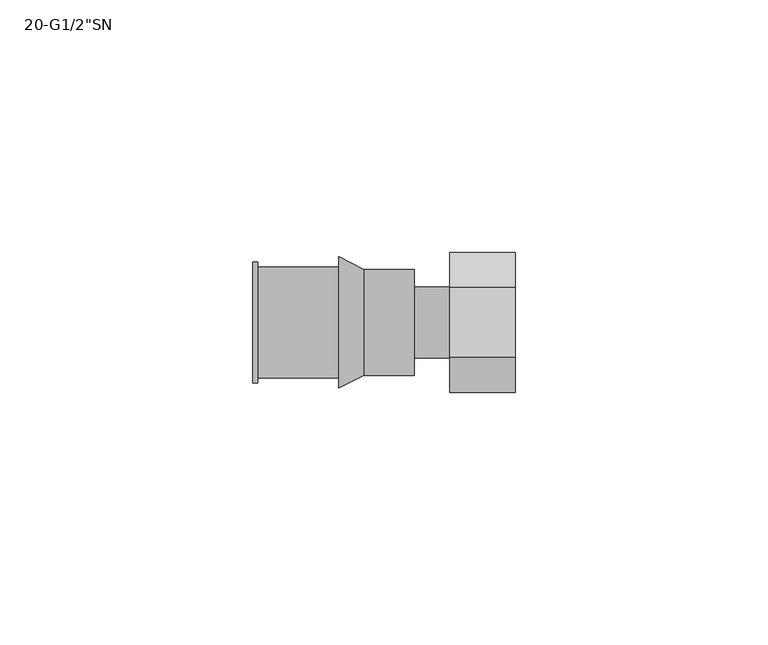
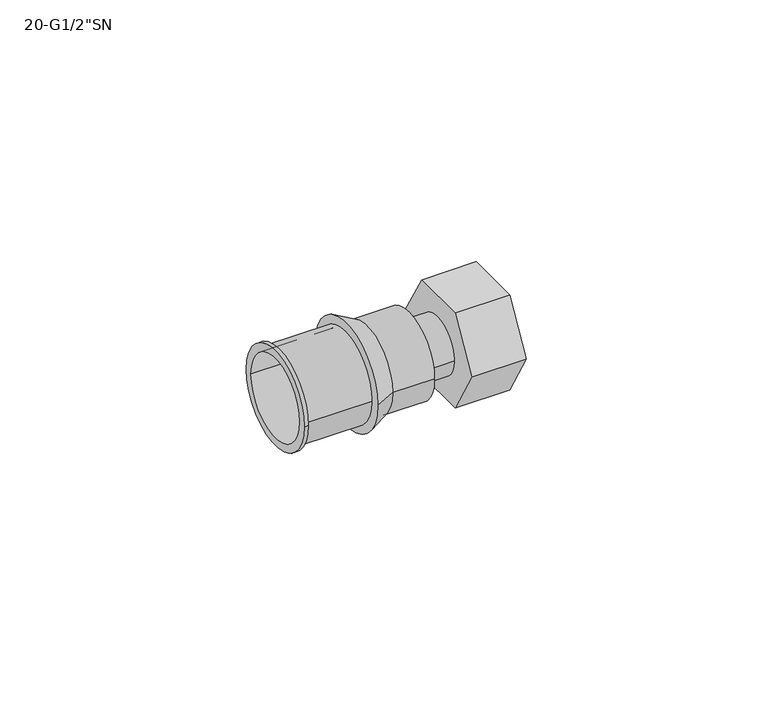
"""IFC4 building model written with IfcOpenShell, lengths in millimetres: pipe fitting geometry."""

from ifc_helpers import new_model, si_unit, frame, origin, place, context, project, spatial, polyline, circle_curve, source, transform, mapped, element, save
from ifc_brep_helpers import plane_surface, cylinder_surface, revolved_surface, advanced_brep


def pipe_fitting_65f6b2e2(model_context):
    return source(origin(), model_context, "Body", "AdvancedBrep", [
        advanced_brep(
        [(-5.0, -10.5, 0.0), (-5.0, 10.5, 0.0), (-5.0, -10.0, 0.0), (-5.0, 10.0, 0.0), (-10.0, -13.0, 0.0), (-10.0, 13.0, 0.0), (-10.0, 10.0, 0.0), (-10.0, -10.0, 0.0)],
        [
            (0, 1, circle_curve(frame((-5.0, 0.0, 0.0), z_axis=(1.0, 0.0, 0.0), x_axis=(0.0, -1.0, 0.0)), 10.5)),
            (1, 0, circle_curve(frame((-5.0, 0.0, 0.0), z_axis=(1.0, 0.0, 0.0), x_axis=(0.0, 1.0, 0.0)), 10.5)),
            (2, 3, circle_curve(frame((-5.0, 0.0, 0.0), z_axis=(-1.0, 0.0, 0.0), x_axis=(0.0, 1.0, 0.0)), 10.0)),
            (3, 2, circle_curve(frame((-5.0, 0.0, 0.0), z_axis=(-1.0, 0.0, 0.0), x_axis=(0.0, 1.0, 0.0)), 10.0)),
            (4, 5, circle_curve(frame((-10.0, 0.0, 0.0), z_axis=(-1.0, 0.0, 0.0), x_axis=(0.0, 1.0, 0.0)), 13.0)),
            (5, 4, circle_curve(frame((-10.0, 0.0, 0.0), z_axis=(-1.0, 0.0, 0.0), x_axis=(0.0, -1.0, 0.0)), 13.0)),
            (6, 7, circle_curve(frame((-10.0, 0.0, 0.0), z_axis=(1.0, 0.0, 0.0), x_axis=(0.0, 1.0, 0.0)), 10.0)),
            (7, 6, circle_curve(frame((-10.0, 0.0, 0.0), z_axis=(1.0, 0.0, 0.0), x_axis=(0.0, 1.0, 0.0)), 10.0)),
            (0, 4),
            (5, 1),
            (6, 3),
            (2, 7),
        ],
        [
            plane_surface(frame((-5.0, 0.0, 0.0), z_axis=(1.0, 0.0, 0.0), x_axis=(0.0, 0.0, -1.0))),
            plane_surface(frame((-10.0, 0.0, 0.0), z_axis=(-1.0, 0.0, 0.0), x_axis=(0.0, 0.0, -1.0))),
            revolved_surface(polyline([(-5.0, -10.5, 0.0), (-10.0, -13.0, 0.0)]), (16.0, 0.0, 0.0), (-1.0, 0.0, 0.0)),
            revolved_surface(polyline([(-5.0, 10.5, 0.0), (-10.0, 13.0, 0.0)]), (16.0, 0.0, 0.0), (-1.0, 0.0, 0.0)),
            revolved_surface(polyline([(-10.0, 10.0, 0.0), (-5.0, 10.0, 0.0)]), (-10.0, 0.0, 0.0), (-1.0, 0.0, 0.0)),
        ],
        [
            (0, [[1, 2], [3, 4]]),
            (1, [[5, 6], [7, 8]]),
            (2, [[-1, 9, -6, 10]]),
            (3, [[-2, -10, -5, -9]]),
            (4, [[11, -3, 12, -7]]),
            (4, [[-11, -8, -12, -4]]),
        ],
    ),
        advanced_brep(
        [(12.0, -13.8564065, 0.0), (12.0, -6.9282032, 12.0), (12.0, 6.9282032, 12.0), (12.0, 13.8564065, 0.0), (12.0, 6.9282032, -12.0), (12.0, -6.9282032, -12.0), (25.0, -13.8564065, 0.0), (25.0, -6.9282032, -12.0), (25.0, 6.9282032, -12.0), (25.0, 13.8564065, 0.0), (25.0, 6.9282032, 12.0), (25.0, -6.9282032, 12.0), (25.0, -8.5, 0.0), (25.0, 8.5, 0.0), (18.0, 8.5, 0.0), (18.0, -8.5, 0.0)],
        [
            (0, 1),
            (1, 2),
            (2, 3),
            (3, 4),
            (4, 5),
            (5, 0),
            (6, 7),
            (7, 8),
            (8, 9),
            (9, 10),
            (10, 11),
            (11, 6),
            (12, 13, circle_curve(frame((25.0, 0.0, 0.0), z_axis=(-1.0, 0.0, 0.0), x_axis=(0.0, -1.0, 0.0)), 8.5)),
            (13, 12, circle_curve(frame((25.0, 0.0, 0.0), z_axis=(-1.0, 0.0, 0.0), x_axis=(0.0, -1.0, 0.0)), 8.5)),
            (0, 6),
            (11, 1),
            (10, 2),
            (9, 3),
            (8, 4),
            (7, 5),
            (14, 15, circle_curve(frame((18.0, 0.0, 0.0), z_axis=(1.0, 0.0, 0.0), x_axis=(0.0, -1.0, 0.0)), 8.5)),
            (15, 14, circle_curve(frame((18.0, 0.0, 0.0), z_axis=(1.0, 0.0, 0.0), x_axis=(0.0, -1.0, 0.0)), 8.5)),
            (14, 13),
            (12, 15),
        ],
        [
            plane_surface(frame((12.0, 0.0, 0.0), z_axis=(-1.0, 0.0, 0.0), x_axis=(0.0, 0.0, 1.0))),
            plane_surface(frame((25.0, 0.0, 0.0), z_axis=(1.0, 0.0, 0.0), x_axis=(0.0, 0.0, 1.0))),
            plane_surface(frame((12.0, -13.8564065, 0.0), z_axis=(0.0, -0.8660254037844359, 0.5000000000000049), x_axis=(1.0, 0.0, 0.0))),
            plane_surface(frame((12.0, -6.9282032, 12.0), z_axis=(0.0, 0.0, 1.0), x_axis=(1.0, 0.0, 0.0))),
            plane_surface(frame((12.0, 6.9282032, 12.0), z_axis=(0.0, 0.866025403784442, 0.4999999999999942), x_axis=(1.0, 0.0, 0.0))),
            plane_surface(frame((12.0, 13.8564065, 0.0), z_axis=(0.0, 0.8660254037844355, -0.5000000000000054), x_axis=(1.0, 0.0, 0.0))),
            plane_surface(frame((12.0, 6.9282032, -12.0), z_axis=(0.0, 0.0, -1.0), x_axis=(1.0, 0.0, 0.0))),
            plane_surface(frame((12.0, -6.9282032, -12.0), z_axis=(0.0, -0.866025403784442, -0.49999999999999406), x_axis=(1.0, 0.0, 0.0))),
            plane_surface(frame((18.0, 0.0, 0.0), z_axis=(1.0, 0.0, 0.0), x_axis=(0.0, 0.0, 1.0))),
            revolved_surface(polyline([(25.0, -8.5, 0.0), (18.0, -8.5, 0.0)]), (25.0, 0.0, 0.0), (1.0, 0.0, 0.0)),
        ],
        [
            (0, [[1, 2, 3, 4, 5, 6]]),
            (1, [[7, 8, 9, 10, 11, 12], [13, 14]]),
            (2, [[-1, 15, -12, 16]]),
            (3, [[-2, -16, -11, 17]]),
            (4, [[-3, -17, -10, 18]]),
            (5, [[-4, -18, -9, 19]]),
            (6, [[-5, -19, -8, 20]]),
            (7, [[-6, -20, -7, -15]]),
            (8, [[21, 22]]),
            (9, [[-21, 23, -13, 24]]),
            (9, [[-22, -24, -14, -23]]),
        ],
    ),
        advanced_brep(
        [(-5.0, -10.5, 0.0), (-5.0, 10.5, 0.0), (5.0, -10.5, 0.0), (5.0, 10.5, 0.0), (5.0, -7.0, 0.0), (5.0, 7.0, 0.0), (12.0, -7.0, 0.0), (12.0, 7.0, 0.0)],
        [
            (0, 1, circle_curve(frame((-5.0, 0.0, 0.0), z_axis=(-1.0, 0.0, 0.0), x_axis=(0.0, 1.0, 0.0)), 10.5)),
            (1, 0, circle_curve(frame((-5.0, 0.0, 0.0), z_axis=(-1.0, 0.0, 0.0), x_axis=(0.0, 1.0, 0.0)), 10.5)),
            (2, 3, circle_curve(frame((5.0, 0.0, 0.0), z_axis=(1.0, 0.0, 0.0), x_axis=(0.0, 1.0, 0.0)), 10.5)),
            (3, 2, circle_curve(frame((5.0, 0.0, 0.0), z_axis=(1.0, 0.0, 0.0), x_axis=(0.0, 1.0, 0.0)), 10.5)),
            (4, 5, circle_curve(frame((5.0, 0.0, 0.0), z_axis=(-1.0, 0.0, 0.0), x_axis=(0.0, 1.0, 0.0)), 7.0)),
            (5, 4, circle_curve(frame((5.0, 0.0, 0.0), z_axis=(-1.0, 0.0, 0.0), x_axis=(0.0, 1.0, 0.0)), 7.0)),
            (1, 3),
            (2, 0),
            (6, 7, circle_curve(frame((12.0, 0.0, 0.0), z_axis=(1.0, 0.0, 0.0), x_axis=(0.0, 1.0, 0.0)), 7.0)),
            (7, 6, circle_curve(frame((12.0, 0.0, 0.0), z_axis=(1.0, 0.0, 0.0), x_axis=(0.0, 1.0, 0.0)), 7.0)),
            (7, 5),
            (4, 6),
        ],
        [
            plane_surface(frame((-5.0, 0.0, 0.0), z_axis=(-1.0, 0.0, 0.0), x_axis=(0.0, 0.0, 1.0))),
            plane_surface(frame((5.0, 0.0, 0.0), z_axis=(1.0, 0.0, 0.0), x_axis=(0.0, 0.0, 1.0))),
            cylinder_surface(frame((-5.0, 0.0, 0.0), z_axis=(-1.0, 0.0, 0.0), x_axis=(0.0, 1.0, 0.0)), 10.5),
            plane_surface(frame((12.0, 0.0, 0.0), z_axis=(1.0, 0.0, 0.0), x_axis=(0.0, 0.0, 1.0))),
            cylinder_surface(frame((5.0, 0.0, 0.0), z_axis=(-1.0, 0.0, 0.0), x_axis=(0.0, 1.0, 0.0)), 7.0),
        ],
        [
            (0, [[1, 2]]),
            (1, [[3, 4], [5, 6]]),
            (2, [[-2, 7, -3, 8]]),
            (2, [[-1, -8, -4, -7]]),
            (3, [[9, 10]]),
            (4, [[-10, 11, -5, 12]]),
            (4, [[-9, -12, -6, -11]]),
        ],
    ),
        advanced_brep(
        [(-27.0, -12.0, 0.0), (-27.0, 12.0, 0.0), (-27.0, -10.0, 0.0), (-27.0, 10.0, 0.0), (-10.0, -11.0, 0.0), (-10.0, 11.0, 0.0), (-10.0, -10.0, 0.0), (-10.0, 10.0, 0.0), (-26.0, 11.0, 0.0), (-26.0, -11.0, 0.0), (-26.0, -10.0, 0.0), (-26.0, 10.0, 0.0), (-26.0, -12.0, 0.0), (-26.0, 12.0, 0.0)],
        [
            (0, 1, circle_curve(frame((-27.0, 0.0, 0.0), z_axis=(-1.0, 0.0, 0.0), x_axis=(0.0, 1.0, 0.0)), 12.0)),
            (1, 0, circle_curve(frame((-27.0, 0.0, 0.0), z_axis=(-1.0, 0.0, 0.0), x_axis=(0.0, 1.0, 0.0)), 12.0)),
            (2, 3, circle_curve(frame((-27.0, 0.0, 0.0), z_axis=(1.0, 0.0, 0.0), x_axis=(0.0, 1.0, 0.0)), 10.0)),
            (3, 2, circle_curve(frame((-27.0, 0.0, 0.0), z_axis=(1.0, 0.0, 0.0), x_axis=(0.0, 1.0, 0.0)), 10.0)),
            (4, 5, circle_curve(frame((-10.0, 0.0, 0.0), z_axis=(1.0, 0.0, 0.0), x_axis=(0.0, 1.0, 0.0)), 11.0)),
            (5, 4, circle_curve(frame((-10.0, 0.0, 0.0), z_axis=(1.0, 0.0, 0.0), x_axis=(0.0, 1.0, 0.0)), 11.0)),
            (6, 7, circle_curve(frame((-10.0, 0.0, 0.0), z_axis=(-1.0, 0.0, 0.0), x_axis=(0.0, 1.0, 0.0)), 10.0)),
            (7, 6, circle_curve(frame((-10.0, 0.0, 0.0), z_axis=(-1.0, 0.0, 0.0), x_axis=(0.0, 1.0, 0.0)), 10.0)),
            (5, 8),
            (8, 9, circle_curve(frame((-26.0, 0.0, 0.0), z_axis=(1.0, 0.0, 0.0), x_axis=(0.0, 1.0, 0.0)), 11.0)),
            (9, 4),
            (9, 8, circle_curve(frame((-26.0, 0.0, 0.0), z_axis=(1.0, 0.0, 0.0), x_axis=(0.0, 1.0, 0.0)), 11.0)),
            (2, 10),
            (10, 6),
            (7, 11),
            (11, 3),
            (12, 13, circle_curve(frame((-26.0, 0.0, 0.0), z_axis=(1.0, 0.0, 0.0), x_axis=(0.0, 1.0, 0.0)), 12.0)),
            (13, 12, circle_curve(frame((-26.0, 0.0, 0.0), z_axis=(1.0, 0.0, 0.0), x_axis=(0.0, 1.0, 0.0)), 12.0)),
            (0, 12),
            (13, 1),
        ],
        [
            plane_surface(frame((-27.0, 0.0, 0.0), z_axis=(-1.0, 0.0, 0.0), x_axis=(0.0, 0.0, 1.0))),
            plane_surface(frame((-10.0, 0.0, 0.0), z_axis=(1.0, 0.0, 0.0), x_axis=(0.0, 0.0, 1.0))),
            cylinder_surface(frame((-27.0, 0.0, 0.0), z_axis=(-1.0, 0.0, 0.0), x_axis=(0.0, 1.0, 0.0)), 11.0),
            revolved_surface(polyline([(-10.0, 10.0, 0.0), (-27.0, 10.0, 0.0)]), (-27.0, 0.0, 0.0), (1.0, 0.0, 0.0)),
            plane_surface(frame((-26.0, 0.0, 0.0), z_axis=(1.0, 0.0, 0.0), x_axis=(0.0, 0.0, 1.0))),
            cylinder_surface(frame((-27.0, 0.0, 0.0), z_axis=(-1.0, 0.0, 0.0), x_axis=(0.0, 1.0, 0.0)), 12.0),
        ],
        [
            (0, [[1, 2], [3, 4]]),
            (1, [[5, 6], [7, 8]]),
            (2, [[-6, 9, 10, 11]]),
            (2, [[-5, -11, 12, -9]]),
            (3, [[-3, 13, 14, -8, 15, 16]]),
            (3, [[-4, -16, -15, -7, -14, -13]]),
            (4, [[17, 18], [-10, -12]]),
            (5, [[-1, 19, -18, 20]]),
            (5, [[-2, -20, -17, -19]]),
        ],
    ),
    ])


if __name__ == "__main__":
    model = new_model("IFC4")
    model_context = context("Model", 3, world=origin())
    ifc_project = project(units=[si_unit("LENGTHUNIT", "METRE", prefix="MILLI")], contexts=[model_context])
    site = spatial("IfcSite", under=ifc_project)
    building = spatial("IfcBuilding", under=site)
    placement = place(None, origin())
    pipe_fitting_shape = pipe_fitting_65f6b2e2(model_context)
    element("IfcPipeFitting", 1, ObjectType="SuperPipe_AdapterSN_MAX_G : 20-G1/2\"SN", at=placement, inside=building, context=model_context, shape_type="MappedRepresentation", body=[
        mapped(pipe_fitting_shape, transform((0.0, 0.0, 0.0), x_axis=(1.0, 0.0, 0.0), y_axis=(0.0, 1.0, 0.0), z_axis=(0.0, 0.0, 1.0))),
    ])
    save(model, "model.ifc")
